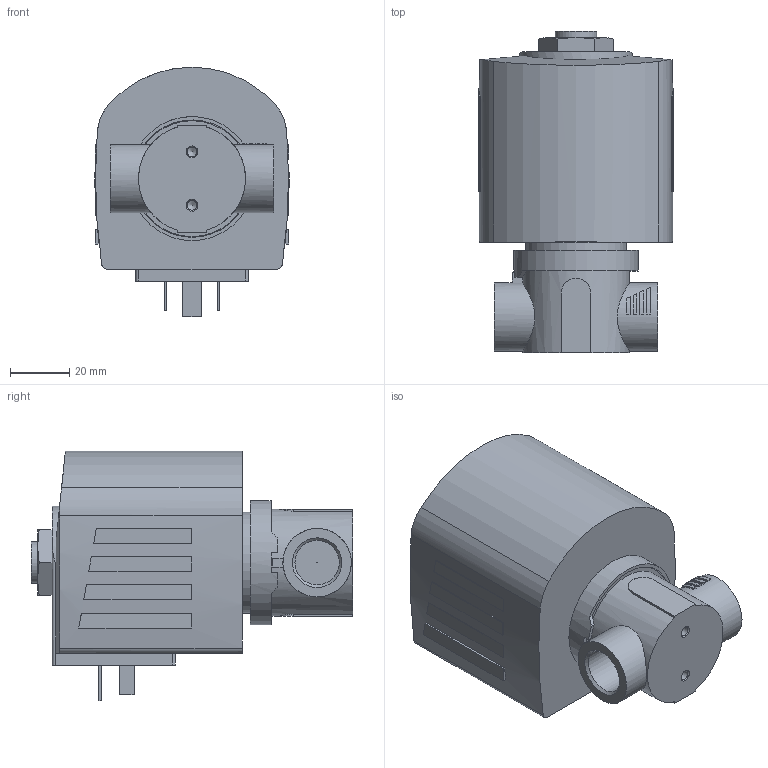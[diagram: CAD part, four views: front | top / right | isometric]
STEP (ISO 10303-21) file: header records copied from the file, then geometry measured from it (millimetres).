
FILE_DESCRIPTION(/* description */ ('STEP AP214'),/* implementation_level */ '2;1');
FILE_NAME(/* name */ '6240-385817-2_2-way_solenoid_valve__pilot-controlled',/* time_stamp */ '2024-05-10T11:38:15+02:00',/* author */ ('License CC BY-ND 4.0'),/* organization */ ('CADENAS'),/* preprocessor_version */ 'ST-DEVELOPER v19.3',/* originating_system */ 'PARTsolutions',/* authorisation */ ' ');
FILE_SCHEMA (('AUTOMOTIVE_DESIGN {1 0 10303 214 3 1 1}'));
Length unit declared in the file: millimetre
Products named in the file (3): 6240-385817-2/2-way solenoid valve, pilot-controlled; 6240-Gehaeuse-2/2-Wege-Magnetventil, vorgesteuert MX31G3/86VA; AC10ex-65SG=l-Plan-Coil
Assembly tree (2 placements, depth 2):
  6240-385817-2/2-way solenoid valve, pilot-controlled
    6240-Gehaeuse-2/2-Wege-Magnetventil, vorgesteuert MX31G3/86VA
    AC10ex-65SG=l-Plan-Coil
Bounding box: 65.62 x 108.2 x 84 mm (x, y, z)
Volume: 303755.9 mm3; surface area: 35919.9 mm2
Topology: 2 solids, 2 shells, 164 faces, 393 edges, 258 vertices
Faces by surface type: plane 117, cylinder 34, cone 13
Full cylindrical faces by diameter (mm): 0.2 x1, 2.013 x1, 3.242 x2, 14 x1, 14.95 x2, 23 x2, 34 x1, 36 x1, 39 x1, 39.5 x1, 41.8 x1
Entity records: 5863 total; most frequent: CARTESIAN_POINT 885, DIRECTION 797, ORIENTED_EDGE 726, EDGE_CURVE 363, AXIS2_PLACEMENT_3D 287, VERTEX_POINT 251, LINE 223, VECTOR 223
